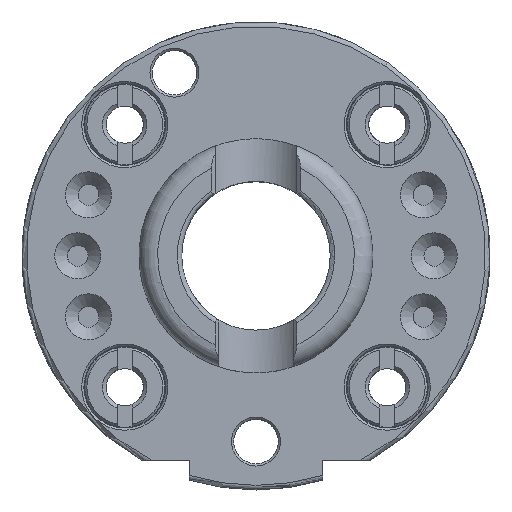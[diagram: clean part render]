
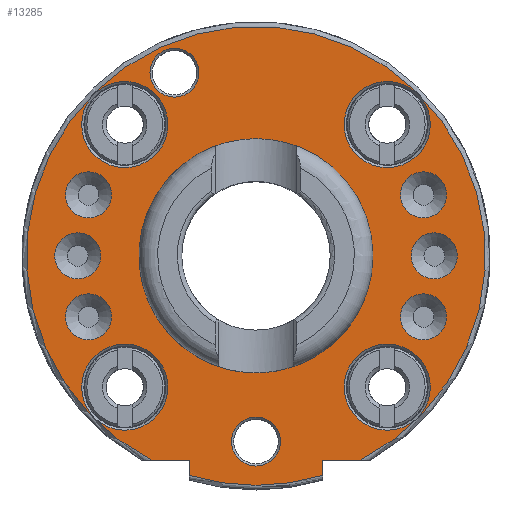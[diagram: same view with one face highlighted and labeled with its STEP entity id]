
A CAD part, top view. The second image highlights one B-rep face of the part: STEP entity #13285.
In plain terms, the highlighted planar face has unit normal (0, 0, 1).
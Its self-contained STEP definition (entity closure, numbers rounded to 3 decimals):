
#1043=FACE_BOUND('',#4667,.T.);
#1044=FACE_BOUND('',#4668,.T.);
#1045=FACE_BOUND('',#4669,.T.);
#1046=FACE_BOUND('',#4670,.T.);
#1047=FACE_BOUND('',#4671,.T.);
#1048=FACE_BOUND('',#4672,.T.);
#1049=FACE_BOUND('',#4673,.T.);
#1050=FACE_BOUND('',#4674,.T.);
#1051=FACE_BOUND('',#4675,.T.);
#1052=FACE_BOUND('',#4676,.T.);
#1053=FACE_BOUND('',#4677,.T.);
#1054=FACE_BOUND('',#4678,.T.);
#1055=FACE_BOUND('',#4679,.T.);
#1334=PLANE('',#14136);
#2192=LINE('',#27142,#3077);
#2193=LINE('',#27144,#3078);
#2194=LINE('',#27148,#3079);
#2195=LINE('',#27149,#3080);
#3077=VECTOR('',#16630,10.);
#3078=VECTOR('',#16631,10.);
#3079=VECTOR('',#16634,10.);
#3080=VECTOR('',#16635,10.);
#3865=FACE_OUTER_BOUND('',#4666,.T.);
#4666=EDGE_LOOP('',(#11625,#11626,#11627,#11628,#11629,#11630));
#4667=EDGE_LOOP('',(#11631));
#4668=EDGE_LOOP('',(#11632));
#4669=EDGE_LOOP('',(#11633));
#4670=EDGE_LOOP('',(#11634));
#4671=EDGE_LOOP('',(#11635));
#4672=EDGE_LOOP('',(#11636));
#4673=EDGE_LOOP('',(#11637));
#4674=EDGE_LOOP('',(#11638));
#4675=EDGE_LOOP('',(#11639));
#4676=EDGE_LOOP('',(#11640));
#4677=EDGE_LOOP('',(#11641));
#4678=EDGE_LOOP('',(#11642));
#4679=EDGE_LOOP('',(#11643));
#4975=CIRCLE('',#13835,15.75);
#5054=CIRCLE('',#14135,3.1);
#5055=CIRCLE('',#14137,30.9);
#5056=CIRCLE('',#14138,30.9);
#5057=CIRCLE('',#14139,3.1);
#5058=CIRCLE('',#14140,3.1);
#5059=CIRCLE('',#14141,3.1);
#5060=CIRCLE('',#14142,3.3);
#5061=CIRCLE('',#14143,5.8);
#5062=CIRCLE('',#14144,5.8);
#5063=CIRCLE('',#14145,5.8);
#5064=CIRCLE('',#14146,5.8);
#5065=CIRCLE('',#14147,3.3);
#5066=CIRCLE('',#14148,3.1);
#5067=CIRCLE('',#14149,3.1);
#5684=VERTEX_POINT('',#21809);
#6274=VERTEX_POINT('',#27134);
#6275=VERTEX_POINT('',#27138);
#6276=VERTEX_POINT('',#27139);
#6277=VERTEX_POINT('',#27141);
#6278=VERTEX_POINT('',#27143);
#6279=VERTEX_POINT('',#27145);
#6280=VERTEX_POINT('',#27147);
#6281=VERTEX_POINT('',#27150);
#6282=VERTEX_POINT('',#27152);
#6283=VERTEX_POINT('',#27154);
#6284=VERTEX_POINT('',#27156);
#6285=VERTEX_POINT('',#27158);
#6286=VERTEX_POINT('',#27160);
#6287=VERTEX_POINT('',#27162);
#6288=VERTEX_POINT('',#27164);
#6289=VERTEX_POINT('',#27166);
#6290=VERTEX_POINT('',#27168);
#6291=VERTEX_POINT('',#27170);
#7170=EDGE_CURVE('',#5684,#5684,#4975,.T.);
#8084=EDGE_CURVE('',#6274,#6274,#5054,.T.);
#8086=EDGE_CURVE('',#6275,#6276,#5055,.T.);
#8087=EDGE_CURVE('',#6275,#6277,#2192,.T.);
#8088=EDGE_CURVE('',#6277,#6278,#2193,.T.);
#8089=EDGE_CURVE('',#6279,#6278,#5056,.T.);
#8090=EDGE_CURVE('',#6279,#6280,#2194,.T.);
#8091=EDGE_CURVE('',#6280,#6276,#2195,.T.);
#8092=EDGE_CURVE('',#6281,#6281,#5057,.T.);
#8093=EDGE_CURVE('',#6282,#6282,#5058,.T.);
#8094=EDGE_CURVE('',#6283,#6283,#5059,.T.);
#8095=EDGE_CURVE('',#6284,#6284,#5060,.T.);
#8096=EDGE_CURVE('',#6285,#6285,#5061,.T.);
#8097=EDGE_CURVE('',#6286,#6286,#5062,.T.);
#8098=EDGE_CURVE('',#6287,#6287,#5063,.T.);
#8099=EDGE_CURVE('',#6288,#6288,#5064,.T.);
#8100=EDGE_CURVE('',#6289,#6289,#5065,.T.);
#8101=EDGE_CURVE('',#6290,#6290,#5066,.T.);
#8102=EDGE_CURVE('',#6291,#6291,#5067,.T.);
#11625=ORIENTED_EDGE('',*,*,#8086,.F.);
#11626=ORIENTED_EDGE('',*,*,#8087,.T.);
#11627=ORIENTED_EDGE('',*,*,#8088,.T.);
#11628=ORIENTED_EDGE('',*,*,#8089,.F.);
#11629=ORIENTED_EDGE('',*,*,#8090,.T.);
#11630=ORIENTED_EDGE('',*,*,#8091,.T.);
#11631=ORIENTED_EDGE('',*,*,#8092,.F.);
#11632=ORIENTED_EDGE('',*,*,#8093,.F.);
#11633=ORIENTED_EDGE('',*,*,#8094,.F.);
#11634=ORIENTED_EDGE('',*,*,#8095,.F.);
#11635=ORIENTED_EDGE('',*,*,#8096,.F.);
#11636=ORIENTED_EDGE('',*,*,#8097,.F.);
#11637=ORIENTED_EDGE('',*,*,#7170,.F.);
#11638=ORIENTED_EDGE('',*,*,#8098,.F.);
#11639=ORIENTED_EDGE('',*,*,#8099,.F.);
#11640=ORIENTED_EDGE('',*,*,#8100,.F.);
#11641=ORIENTED_EDGE('',*,*,#8101,.F.);
#11642=ORIENTED_EDGE('',*,*,#8102,.F.);
#11643=ORIENTED_EDGE('',*,*,#8084,.F.);
#13285=ADVANCED_FACE('',(#3865,#1043,#1044,#1045,#1046,#1047,#1048,#1049,
#1050,#1051,#1052,#1053,#1054,#1055),#1334,.T.);
#13835=AXIS2_PLACEMENT_3D('',#21810,#15557,#15558);
#14135=AXIS2_PLACEMENT_3D('',#27135,#16623,#16624);
#14136=AXIS2_PLACEMENT_3D('',#27137,#16626,#16627);
#14137=AXIS2_PLACEMENT_3D('',#27140,#16628,#16629);
#14138=AXIS2_PLACEMENT_3D('',#27146,#16632,#16633);
#14139=AXIS2_PLACEMENT_3D('',#27151,#16636,#16637);
#14140=AXIS2_PLACEMENT_3D('',#27153,#16638,#16639);
#14141=AXIS2_PLACEMENT_3D('',#27155,#16640,#16641);
#14142=AXIS2_PLACEMENT_3D('',#27157,#16642,#16643);
#14143=AXIS2_PLACEMENT_3D('',#27159,#16644,#16645);
#14144=AXIS2_PLACEMENT_3D('',#27161,#16646,#16647);
#14145=AXIS2_PLACEMENT_3D('',#27163,#16648,#16649);
#14146=AXIS2_PLACEMENT_3D('',#27165,#16650,#16651);
#14147=AXIS2_PLACEMENT_3D('',#27167,#16652,#16653);
#14148=AXIS2_PLACEMENT_3D('',#27169,#16654,#16655);
#14149=AXIS2_PLACEMENT_3D('',#27171,#16656,#16657);
#15557=DIRECTION('center_axis',(0.,0.,1.));
#15558=DIRECTION('ref_axis',(-1.,0.,0.));
#16623=DIRECTION('center_axis',(0.,0.,1.));
#16624=DIRECTION('ref_axis',(-1.,0.,0.));
#16626=DIRECTION('center_axis',(0.,0.,1.));
#16627=DIRECTION('ref_axis',(1.,0.,0.));
#16628=DIRECTION('center_axis',(0.,0.,-1.));
#16629=DIRECTION('ref_axis',(0.,-1.,0.));
#16630=DIRECTION('',(0.,1.,0.));
#16631=DIRECTION('',(1.,0.,0.));
#16632=DIRECTION('center_axis',(0.,0.,-1.));
#16633=DIRECTION('ref_axis',(0.,1.,0.));
#16634=DIRECTION('',(1.,0.,0.));
#16635=DIRECTION('',(0.,-1.,0.));
#16636=DIRECTION('center_axis',(0.,0.,1.));
#16637=DIRECTION('ref_axis',(-1.,0.,0.));
#16638=DIRECTION('center_axis',(0.,0.,1.));
#16639=DIRECTION('ref_axis',(-1.,0.,0.));
#16640=DIRECTION('center_axis',(0.,0.,1.));
#16641=DIRECTION('ref_axis',(-1.,0.,0.));
#16642=DIRECTION('center_axis',(0.,0.,1.));
#16643=DIRECTION('ref_axis',(-1.,0.,0.));
#16644=DIRECTION('center_axis',(0.,0.,1.));
#16645=DIRECTION('ref_axis',(-1.,0.,0.));
#16646=DIRECTION('center_axis',(0.,0.,1.));
#16647=DIRECTION('ref_axis',(-1.,0.,0.));
#16648=DIRECTION('center_axis',(0.,0.,1.));
#16649=DIRECTION('ref_axis',(-1.,0.,0.));
#16650=DIRECTION('center_axis',(0.,0.,1.));
#16651=DIRECTION('ref_axis',(-1.,0.,0.));
#16652=DIRECTION('center_axis',(0.,0.,1.));
#16653=DIRECTION('ref_axis',(-1.,0.,0.));
#16654=DIRECTION('center_axis',(0.,0.,1.));
#16655=DIRECTION('ref_axis',(-1.,0.,0.));
#16656=DIRECTION('center_axis',(0.,0.,1.));
#16657=DIRECTION('ref_axis',(-1.,0.,0.));
#21809=CARTESIAN_POINT('',(15.75,0.,16.));
#21810=CARTESIAN_POINT('Origin',(0.,0.,16.));
#27134=CARTESIAN_POINT('',(-19.453,8.208,16.));
#27135=CARTESIAN_POINT('Origin',(-22.553,8.208,16.));
#27137=CARTESIAN_POINT('Origin',(0.,0.,
16.));
#27138=CARTESIAN_POINT('',(9.,-29.56,16.));
#27139=CARTESIAN_POINT('',(-9.,-29.56,16.));
#27140=CARTESIAN_POINT('Origin',(0.,0.,16.));
#27141=CARTESIAN_POINT('',(9.,-27.5,16.));
#27142=CARTESIAN_POINT('',(9.,-15.75,16.));
#27143=CARTESIAN_POINT('',(14.091,-27.5,16.));
#27144=CARTESIAN_POINT('',(4.5,-27.5,16.));
#27145=CARTESIAN_POINT('',(-14.091,-27.5,16.));
#27146=CARTESIAN_POINT('Origin',(0.,0.,16.));
#27147=CARTESIAN_POINT('',(-9.,-27.5,16.));
#27148=CARTESIAN_POINT('',(-7.681,-27.5,16.));
#27149=CARTESIAN_POINT('',(-9.,-13.75,16.));
#27150=CARTESIAN_POINT('',(-20.9,0.,16.));
#27151=CARTESIAN_POINT('Origin',(-24.,0.,16.));
#27152=CARTESIAN_POINT('',(25.653,8.208,16.));
#27153=CARTESIAN_POINT('Origin',(22.553,8.208,16.));
#27154=CARTESIAN_POINT('',(25.653,-8.208,16.));
#27155=CARTESIAN_POINT('Origin',(22.553,-8.208,16.));
#27156=CARTESIAN_POINT('',(-7.682,24.666,16.));
#27157=CARTESIAN_POINT('Origin',(-10.982,24.666,16.));
#27158=CARTESIAN_POINT('',(-11.878,17.678,16.));
#27159=CARTESIAN_POINT('Origin',(-17.678,17.678,16.));
#27160=CARTESIAN_POINT('',(23.478,-17.678,16.));
#27161=CARTESIAN_POINT('Origin',(17.678,-17.678,16.));
#27162=CARTESIAN_POINT('',(23.478,17.678,16.));
#27163=CARTESIAN_POINT('Origin',(17.678,17.678,16.));
#27164=CARTESIAN_POINT('',(-11.878,-17.678,16.));
#27165=CARTESIAN_POINT('Origin',(-17.678,-17.678,16.));
#27166=CARTESIAN_POINT('',(3.3,-25.,16.));
#27167=CARTESIAN_POINT('Origin',(0.,-25.,16.));
#27168=CARTESIAN_POINT('',(27.1,0.,16.));
#27169=CARTESIAN_POINT('Origin',(24.,0.,16.));
#27170=CARTESIAN_POINT('',(-19.453,-8.208,16.));
#27171=CARTESIAN_POINT('Origin',(-22.553,-8.208,16.));
